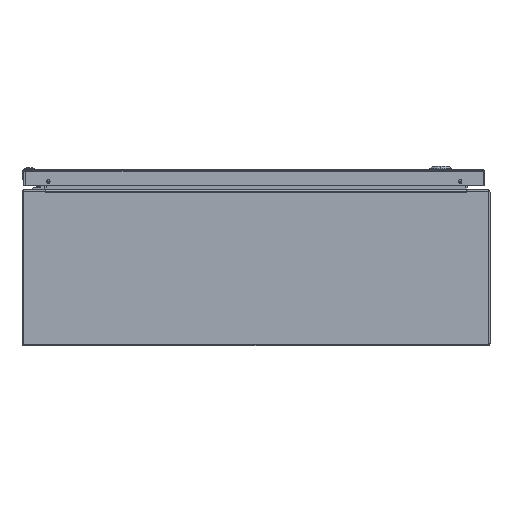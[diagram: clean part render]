
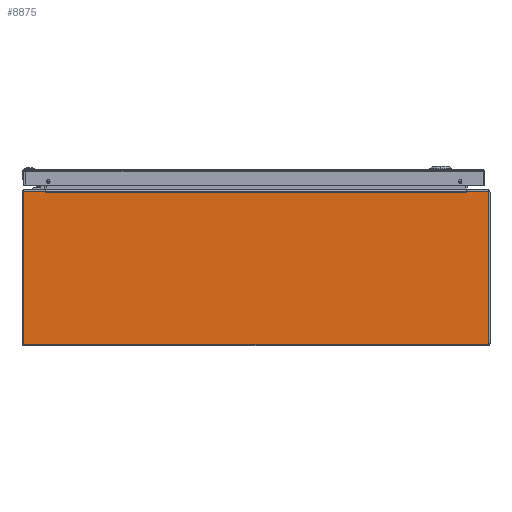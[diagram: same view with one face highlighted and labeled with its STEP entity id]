
A CAD part, front view. The second image highlights one B-rep face of the part: STEP entity #8875.
In plain terms, the highlighted planar face has unit normal (0, -1, 0).
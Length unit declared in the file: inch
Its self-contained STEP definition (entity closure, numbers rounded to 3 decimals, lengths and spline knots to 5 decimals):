
#7658=CARTESIAN_POINT('',(-11.857,0.,3.857));
#7659=DIRECTION('',(0.,-1.,0.));
#7660=DIRECTION('',(0.,0.,1.));
#7661=AXIS2_PLACEMENT_3D('',#7658,#7659,#7660);
#7666=DIRECTION('',(-1.,0.,0.));
#7667=VECTOR('',#7666,1.03388);
#7668=CARTESIAN_POINT('',(-10.82312,0.,3.937));
#7669=LINE('',#7668,#7667);
#7673=DIRECTION('',(0.174,0.,-0.985));
#7674=VECTOR('',#7673,0.05483);
#7675=CARTESIAN_POINT('',(-10.82312,0.,3.937));
#7676=LINE('',#7675,#7674);
#7680=DIRECTION('',(-1.,0.,0.));
#7681=VECTOR('',#7680,0.0156);
#7682=CARTESIAN_POINT('',(-10.798,0.,3.883));
#7683=LINE('',#7682,#7681);
#7687=DIRECTION('',(1.,0.,0.));
#7688=VECTOR('',#7687,0.0156);
#7689=CARTESIAN_POINT('',(10.798,0.,3.883));
#7690=LINE('',#7689,#7688);
#7694=DIRECTION('',(-0.174,0.,-0.985));
#7695=VECTOR('',#7694,0.05483);
#7696=CARTESIAN_POINT('',(10.82312,0.,3.937));
#7697=LINE('',#7696,#7695);
#7701=DIRECTION('',(-1.,0.,0.));
#7702=VECTOR('',#7701,1.03388);
#7703=CARTESIAN_POINT('',(11.857,0.,3.937));
#7704=LINE('',#7703,#7702);
#7708=CARTESIAN_POINT('',(11.857,0.,3.857));
#7709=DIRECTION('',(0.,-1.,0.));
#7710=DIRECTION('',(1.,0.,0.));
#7711=AXIS2_PLACEMENT_3D('',#7708,#7709,#7710);
#7716=DIRECTION('',(0.,0.,1.));
#7717=VECTOR('',#7716,7.714);
#7718=CARTESIAN_POINT('',(11.937,0.,-3.857));
#7719=LINE('',#7718,#7717);
#7723=CARTESIAN_POINT('',(11.857,0.,-3.857));
#7724=DIRECTION('',(0.,-1.,0.));
#7725=DIRECTION('',(0.,0.,-1.));
#7726=AXIS2_PLACEMENT_3D('',#7723,#7724,#7725);
#7731=DIRECTION('',(1.,0.,0.));
#7732=VECTOR('',#7731,23.714);
#7733=CARTESIAN_POINT('',(-11.857,0.,-3.937));
#7734=LINE('',#7733,#7732);
#7738=CARTESIAN_POINT('',(-11.857,0.,-3.857));
#7739=DIRECTION('',(0.,-1.,0.));
#7740=DIRECTION('',(-1.,0.,0.));
#7741=AXIS2_PLACEMENT_3D('',#7738,#7739,#7740);
#7746=DIRECTION('',(0.,0.,-1.));
#7747=VECTOR('',#7746,7.714);
#7748=CARTESIAN_POINT('',(-11.937,0.,3.857));
#7749=LINE('',#7748,#7747);
#8027=DIRECTION('',(1.,0.,0.));
#8028=VECTOR('',#8027,21.596);
#8029=CARTESIAN_POINT('',(-10.798,0.,3.883));
#8030=LINE('',#8029,#8028);
#8688=CARTESIAN_POINT('',(10.798,0.,3.883));
#8689=CARTESIAN_POINT('',(10.8136,0.,3.883));
#8690=VERTEX_POINT('',#8688);
#8691=VERTEX_POINT('',#8689);
#8692=CARTESIAN_POINT('',(10.82312,0.,3.937));
#8693=VERTEX_POINT('',#8692);
#8700=CARTESIAN_POINT('',(-10.798,0.,3.883));
#8701=CARTESIAN_POINT('',(-10.8136,0.,3.883));
#8702=VERTEX_POINT('',#8700);
#8703=VERTEX_POINT('',#8701);
#8704=CARTESIAN_POINT('',(-10.82312,0.,3.937));
#8705=VERTEX_POINT('',#8704);
#8764=CARTESIAN_POINT('',(-11.857,0.,3.937));
#8765=CARTESIAN_POINT('',(-11.937,0.,3.857));
#8766=VERTEX_POINT('',#8764);
#8767=VERTEX_POINT('',#8765);
#8772=CARTESIAN_POINT('',(-11.937,0.,-3.857));
#8773=CARTESIAN_POINT('',(-11.857,0.,-3.937));
#8774=VERTEX_POINT('',#8772);
#8775=VERTEX_POINT('',#8773);
#8780=CARTESIAN_POINT('',(11.857,0.,-3.937));
#8781=CARTESIAN_POINT('',(11.937,0.,-3.857));
#8782=VERTEX_POINT('',#8780);
#8783=VERTEX_POINT('',#8781);
#8788=CARTESIAN_POINT('',(11.937,0.,3.857));
#8789=CARTESIAN_POINT('',(11.857,0.,3.937));
#8790=VERTEX_POINT('',#8788);
#8791=VERTEX_POINT('',#8789);
#8840=CARTESIAN_POINT('',(0.,0.,0.));
#8841=DIRECTION('',(0.,-1.,0.));
#8842=DIRECTION('',(-1.,0.,0.));
#8843=AXIS2_PLACEMENT_3D('',#8840,#8841,#8842);
#8844=PLANE('',#8843);
#8846=ORIENTED_EDGE('',*,*,#8845,.F.);
#8848=ORIENTED_EDGE('',*,*,#8847,.F.);
#8850=ORIENTED_EDGE('',*,*,#8849,.T.);
#8852=ORIENTED_EDGE('',*,*,#8851,.F.);
#8854=ORIENTED_EDGE('',*,*,#8853,.T.);
#8856=ORIENTED_EDGE('',*,*,#8855,.T.);
#8858=ORIENTED_EDGE('',*,*,#8857,.F.);
#8860=ORIENTED_EDGE('',*,*,#8859,.F.);
#8862=ORIENTED_EDGE('',*,*,#8861,.F.);
#8864=ORIENTED_EDGE('',*,*,#8863,.F.);
#8866=ORIENTED_EDGE('',*,*,#8865,.F.);
#8868=ORIENTED_EDGE('',*,*,#8867,.F.);
#8870=ORIENTED_EDGE('',*,*,#8869,.F.);
#8872=ORIENTED_EDGE('',*,*,#8871,.F.);
#8873=EDGE_LOOP('',(#8846,#8848,#8850,#8852,#8854,#8856,#8858,#8860,#8862,#8864,
#8866,#8868,#8870,#8872));
#8874=FACE_OUTER_BOUND('',#8873,.F.);
#7662=CIRCLE('',#7661,0.08);
#7712=CIRCLE('',#7711,0.08);
#7727=CIRCLE('',#7726,0.08);
#7742=CIRCLE('',#7741,0.08);
#8845=EDGE_CURVE('',#8766,#8767,#7662,.T.);
#8847=EDGE_CURVE('',#8705,#8766,#7669,.T.);
#8849=EDGE_CURVE('',#8705,#8703,#7676,.T.);
#8851=EDGE_CURVE('',#8702,#8703,#7683,.T.);
#8853=EDGE_CURVE('',#8702,#8690,#8030,.T.);
#8855=EDGE_CURVE('',#8690,#8691,#7690,.T.);
#8857=EDGE_CURVE('',#8693,#8691,#7697,.T.);
#8859=EDGE_CURVE('',#8791,#8693,#7704,.T.);
#8861=EDGE_CURVE('',#8790,#8791,#7712,.T.);
#8863=EDGE_CURVE('',#8783,#8790,#7719,.T.);
#8865=EDGE_CURVE('',#8782,#8783,#7727,.T.);
#8867=EDGE_CURVE('',#8775,#8782,#7734,.T.);
#8869=EDGE_CURVE('',#8774,#8775,#7742,.T.);
#8871=EDGE_CURVE('',#8767,#8774,#7749,.T.);
#8875=ADVANCED_FACE('',(#8874),#8844,.T.);
